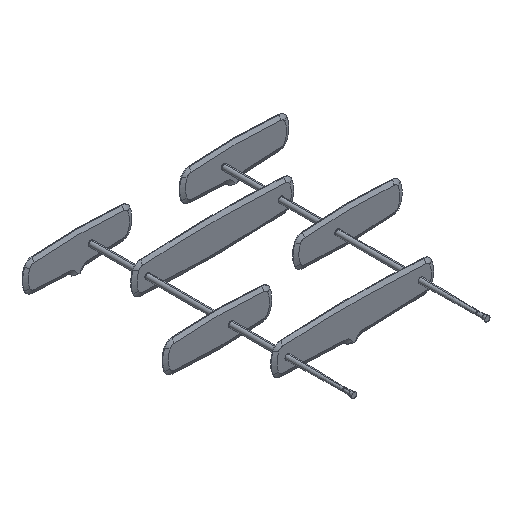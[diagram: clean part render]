
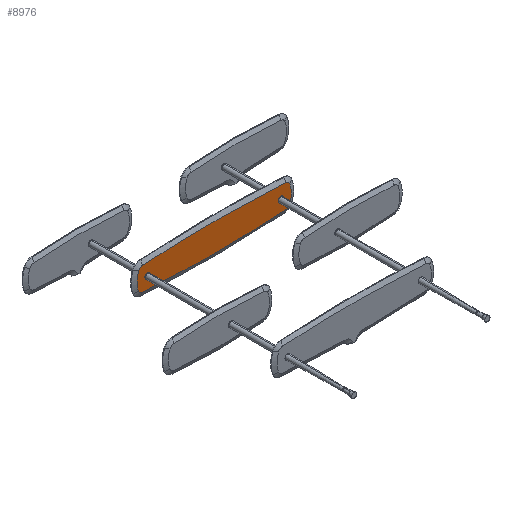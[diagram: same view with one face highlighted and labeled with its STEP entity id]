
A CAD part, isometric view. The second image highlights one B-rep face of the part: STEP entity #8976.
In plain terms, the highlighted planar face has unit normal (0, -1, 0).
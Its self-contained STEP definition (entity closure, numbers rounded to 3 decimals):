
#73 = EDGE_LOOP ( 'NONE', ( #6147, #9032, #6223, #5272, #3690, #6946, #5539, #1295 ) ) ;
#77 = AXIS2_PLACEMENT_3D ( 'NONE', #2738, #6662, #1226 ) ;
#80 = CARTESIAN_POINT ( 'NONE',  ( 358.307, 0., -92.161 ) ) ;
#161 = DIRECTION ( 'NONE',  ( 0., 0., 1. ) ) ;
#355 = EDGE_CURVE ( 'NONE', #8751, #1569, #4866, .T. ) ;
#416 = B_SPLINE_CURVE_WITH_KNOTS ( 'NONE', 3,
 ( #7031, #1591, #5537, #9499, #5498, #8724, #8790, #7531, #1626, #7889, #80, #4791 ),
 .UNSPECIFIED., .F., .F.,
 ( 4, 1, 1, 1, 1, 2, 2, 4 ),
 ( 0., 0.25, 0.375, 0.438, 0.469, 0.484, 0.5, 1. ),
 .UNSPECIFIED. ) ;
#519 = FACE_BOUND ( 'NONE', #5025, .T. ) ;
#542 = AXIS2_PLACEMENT_3D ( 'NONE', #8468, #2889, #6843 ) ;
#626 = CARTESIAN_POINT ( 'NONE',  ( 537.222, 0., 95.08 ) ) ;
#701 = ORIENTED_EDGE ( 'NONE', *, *, #5579, .T. ) ;
#893 = CIRCLE ( 'NONE', #77, 35. ) ;
#1014 = CARTESIAN_POINT ( 'NONE',  ( -500., 0., 12.151 ) ) ;
#1037 = DIRECTION ( 'NONE',  ( 0., 1., 0. ) ) ;
#1140 = CARTESIAN_POINT ( 'NONE',  ( 500., 0., 7.151 ) ) ;
#1226 = DIRECTION ( 'NONE',  ( 0., 0., 1. ) ) ;
#1284 = PLANE ( 'NONE',  #2794 ) ;
#1295 = ORIENTED_EDGE ( 'NONE', *, *, #3964, .T. ) ;
#1329 = CARTESIAN_POINT ( 'NONE',  ( 537.222, 0., -80.779 ) ) ;
#1470 = CIRCLE ( 'NONE', #9526, 35. ) ;
#1501 = CARTESIAN_POINT ( 'NONE',  ( 11.267, 0., 112.145 ) ) ;
#1569 = VERTEX_POINT ( 'NONE', #6275 ) ;
#1591 = CARTESIAN_POINT ( 'NONE',  ( -447.786, 0., -86.468 ) ) ;
#1626 = CARTESIAN_POINT ( 'NONE',  ( -5.667, 0., -97.849 ) ) ;
#1829 = DIRECTION ( 'NONE',  ( 0., 1., 0. ) ) ;
#2191 = CARTESIAN_POINT ( 'NONE',  ( 537.222, 0., 95.08 ) ) ;
#2207 = CIRCLE ( 'NONE', #5642, 180.45 ) ;
#2441 = CARTESIAN_POINT ( 'NONE',  ( -567.594, 0., 72.904 ) ) ;
#2738 = CARTESIAN_POINT ( 'NONE',  ( 535., 0., -45.849 ) ) ;
#2794 = AXIS2_PLACEMENT_3D ( 'NONE', #3675, #2802, #6048 ) ;
#2802 = DIRECTION ( 'NONE',  ( 0., 1., 0. ) ) ;
#2816 = CIRCLE ( 'NONE', #3087, 5. ) ;
#2889 = DIRECTION ( 'NONE',  ( 0., -1., 0. ) ) ;
#2958 = CARTESIAN_POINT ( 'NONE',  ( 22.468, 0., 112.123 ) ) ;
#2974 = EDGE_CURVE ( 'NONE', #7195, #6535, #1470, .T. ) ;
#3008 = VERTEX_POINT ( 'NONE', #5059 ) ;
#3087 = AXIS2_PLACEMENT_3D ( 'NONE', #9639, #1037, #161 ) ;
#3244 = VERTEX_POINT ( 'NONE', #9708 ) ;
#3277 = AXIS2_PLACEMENT_3D ( 'NONE', #6556, #4981, #9798 ) ;
#3357 = VERTEX_POINT ( 'NONE', #1329 ) ;
#3393 = CIRCLE ( 'NONE', #3277, 5. ) ;
#3614 = DIRECTION ( 'NONE',  ( 0., -1., 0. ) ) ;
#3616 = B_SPLINE_CURVE_WITH_KNOTS ( 'NONE', 3,
 ( #626, #6164, #6126, #9230, #8570, #8533, #2958, #1501, #8459, #3830, #9347, #3752 ),
 .UNSPECIFIED., .F., .F.,
 ( 4, 1, 1, 1, 1, 2, 2, 4 ),
 ( 0., 0.25, 0.375, 0.438, 0.469, 0.484, 0.5, 1. ),
 .UNSPECIFIED. ) ;
#3675 = CARTESIAN_POINT ( 'NONE',  ( -399.55, 0., 7.151 ) ) ;
#3690 = ORIENTED_EDGE ( 'NONE', *, *, #2974, .T. ) ;
#3752 = CARTESIAN_POINT ( 'NONE',  ( -537.222, 0., 95.08 ) ) ;
#3802 = VERTEX_POINT ( 'NONE', #2441 ) ;
#3830 = CARTESIAN_POINT ( 'NONE',  ( -179.211, 0., 112.152 ) ) ;
#3964 = EDGE_CURVE ( 'NONE', #3802, #4187, #2207, .T. ) ;
#4010 = DIRECTION ( 'NONE',  ( 0., -1., 0. ) ) ;
#4045 = CIRCLE ( 'NONE', #8048, 180.45 ) ;
#4168 = VERTEX_POINT ( 'NONE', #10132 ) ;
#4187 = VERTEX_POINT ( 'NONE', #5343 ) ;
#4284 = CARTESIAN_POINT ( 'NONE',  ( 500., 0., 2.151 ) ) ;
#4673 = AXIS2_PLACEMENT_3D ( 'NONE', #5565, #4010, #4829 ) ;
#4791 = CARTESIAN_POINT ( 'NONE',  ( 537.222, 0., -80.779 ) ) ;
#4829 = DIRECTION ( 'NONE',  ( 0., 0., 1. ) ) ;
#4866 = CIRCLE ( 'NONE', #5366, 5. ) ;
#4981 = DIRECTION ( 'NONE',  ( 0., 1., 0. ) ) ;
#4989 = EDGE_CURVE ( 'NONE', #3008, #7195, #4045, .T. ) ;
#5025 = EDGE_LOOP ( 'NONE', ( #8721, #6777 ) ) ;
#5059 = CARTESIAN_POINT ( 'NONE',  ( 567.594, 0., -58.603 ) ) ;
#5105 = CARTESIAN_POINT ( 'NONE',  ( -537.222, 0., 95.08 ) ) ;
#5257 = EDGE_CURVE ( 'NONE', #6535, #5711, #3616, .T. ) ;
#5272 = ORIENTED_EDGE ( 'NONE', *, *, #4989, .T. ) ;
#5343 = CARTESIAN_POINT ( 'NONE',  ( -567.594, 0., -58.603 ) ) ;
#5366 = AXIS2_PLACEMENT_3D ( 'NONE', #1140, #1829, #9807 ) ;
#5498 = CARTESIAN_POINT ( 'NONE',  ( -78.469, 0., -97.538 ) ) ;
#5537 = CARTESIAN_POINT ( 'NONE',  ( -313.565, 0., -92.869 ) ) ;
#5539 = ORIENTED_EDGE ( 'NONE', *, *, #6027, .T. ) ;
#5565 = CARTESIAN_POINT ( 'NONE',  ( -535., 0., 60.151 ) ) ;
#5579 = EDGE_CURVE ( 'NONE', #1569, #8751, #6718, .T. ) ;
#5642 = AXIS2_PLACEMENT_3D ( 'NONE', #7430, #9883, #5854 ) ;
#5711 = VERTEX_POINT ( 'NONE', #5105 ) ;
#5854 = DIRECTION ( 'NONE',  ( 0., 0., 1. ) ) ;
#5961 = EDGE_CURVE ( 'NONE', #4168, #3357, #416, .T. ) ;
#6027 = EDGE_CURVE ( 'NONE', #5711, #3802, #8184, .T. ) ;
#6048 = DIRECTION ( 'NONE',  ( 0., 0., 1. ) ) ;
#6126 = CARTESIAN_POINT ( 'NONE',  ( 313.565, 0., 107.17 ) ) ;
#6147 = ORIENTED_EDGE ( 'NONE', *, *, #9956, .T. ) ;
#6164 = CARTESIAN_POINT ( 'NONE',  ( 447.787, 0., 100.769 ) ) ;
#6223 = ORIENTED_EDGE ( 'NONE', *, *, #6868, .T. ) ;
#6275 = CARTESIAN_POINT ( 'NONE',  ( 500., 0., 12.151 ) ) ;
#6364 = EDGE_CURVE ( 'NONE', #3244, #7140, #3393, .T. ) ;
#6388 = EDGE_LOOP ( 'NONE', ( #701, #8222 ) ) ;
#6535 = VERTEX_POINT ( 'NONE', #2191 ) ;
#6556 = CARTESIAN_POINT ( 'NONE',  ( -500., 0., 7.151 ) ) ;
#6662 = DIRECTION ( 'NONE',  ( 0., -1., 0. ) ) ;
#6718 = CIRCLE ( 'NONE', #8860, 5. ) ;
#6777 = ORIENTED_EDGE ( 'NONE', *, *, #6364, .T. ) ;
#6843 = DIRECTION ( 'NONE',  ( 0., 0., 1. ) ) ;
#6868 = EDGE_CURVE ( 'NONE', #3357, #3008, #893, .T. ) ;
#6946 = ORIENTED_EDGE ( 'NONE', *, *, #5257, .T. ) ;
#7009 = CARTESIAN_POINT ( 'NONE',  ( 535., 0., 60.151 ) ) ;
#7031 = CARTESIAN_POINT ( 'NONE',  ( -537.222, 0., -80.779 ) ) ;
#7140 = VERTEX_POINT ( 'NONE', #1014 ) ;
#7195 = VERTEX_POINT ( 'NONE', #9810 ) ;
#7384 = DIRECTION ( 'NONE',  ( 0., 1., 0. ) ) ;
#7430 = CARTESIAN_POINT ( 'NONE',  ( -399.55, 0., 7.151 ) ) ;
#7531 = CARTESIAN_POINT ( 'NONE',  ( -11.267, 0., -97.844 ) ) ;
#7889 = CARTESIAN_POINT ( 'NONE',  ( 179.212, 0., -97.851 ) ) ;
#8048 = AXIS2_PLACEMENT_3D ( 'NONE', #8347, #3614, #9856 ) ;
#8093 = CIRCLE ( 'NONE', #542, 35. ) ;
#8184 = CIRCLE ( 'NONE', #4673, 35. ) ;
#8196 = CARTESIAN_POINT ( 'NONE',  ( 500., 0., 7.151 ) ) ;
#8222 = ORIENTED_EDGE ( 'NONE', *, *, #355, .T. ) ;
#8347 = CARTESIAN_POINT ( 'NONE',  ( 399.55, 0., 7.151 ) ) ;
#8459 = CARTESIAN_POINT ( 'NONE',  ( 5.667, 0., 112.15 ) ) ;
#8468 = CARTESIAN_POINT ( 'NONE',  ( -535., 0., -45.849 ) ) ;
#8533 = CARTESIAN_POINT ( 'NONE',  ( 39.27, 0., 112.072 ) ) ;
#8555 = FACE_OUTER_BOUND ( 'NONE', #73, .T. ) ;
#8567 = DIRECTION ( 'NONE',  ( 0., 0., 1. ) ) ;
#8570 = CARTESIAN_POINT ( 'NONE',  ( 78.47, 0., 111.839 ) ) ;
#8721 = ORIENTED_EDGE ( 'NONE', *, *, #9348, .T. ) ;
#8724 = CARTESIAN_POINT ( 'NONE',  ( -39.27, 0., -97.771 ) ) ;
#8751 = VERTEX_POINT ( 'NONE', #4284 ) ;
#8790 = CARTESIAN_POINT ( 'NONE',  ( -22.468, 0., -97.822 ) ) ;
#8860 = AXIS2_PLACEMENT_3D ( 'NONE', #8196, #7384, #9786 ) ;
#8939 = FACE_BOUND ( 'NONE', #6388, .T. ) ;
#8976 = ADVANCED_FACE ( 'NONE', ( #519, #8939, #8555 ), #1284, .F. ) ;
#9032 = ORIENTED_EDGE ( 'NONE', *, *, #5961, .T. ) ;
#9230 = CARTESIAN_POINT ( 'NONE',  ( 156.855, 0., 110.905 ) ) ;
#9347 = CARTESIAN_POINT ( 'NONE',  ( -358.307, 0., 106.462 ) ) ;
#9348 = EDGE_CURVE ( 'NONE', #7140, #3244, #2816, .T. ) ;
#9499 = CARTESIAN_POINT ( 'NONE',  ( -156.854, 0., -96.604 ) ) ;
#9526 = AXIS2_PLACEMENT_3D ( 'NONE', #7009, #10233, #8567 ) ;
#9639 = CARTESIAN_POINT ( 'NONE',  ( -500., 0., 7.151 ) ) ;
#9708 = CARTESIAN_POINT ( 'NONE',  ( -500., 0., 2.151 ) ) ;
#9786 = DIRECTION ( 'NONE',  ( 0., 0., 1. ) ) ;
#9798 = DIRECTION ( 'NONE',  ( 0., 0., 1. ) ) ;
#9807 = DIRECTION ( 'NONE',  ( 0., 0., 1. ) ) ;
#9810 = CARTESIAN_POINT ( 'NONE',  ( 567.594, 0., 72.904 ) ) ;
#9856 = DIRECTION ( 'NONE',  ( 0., 0., 1. ) ) ;
#9883 = DIRECTION ( 'NONE',  ( 0., -1., 0. ) ) ;
#9956 = EDGE_CURVE ( 'NONE', #4187, #4168, #8093, .T. ) ;
#10132 = CARTESIAN_POINT ( 'NONE',  ( -537.222, 0., -80.779 ) ) ;
#10233 = DIRECTION ( 'NONE',  ( 0., -1., 0. ) ) ;
